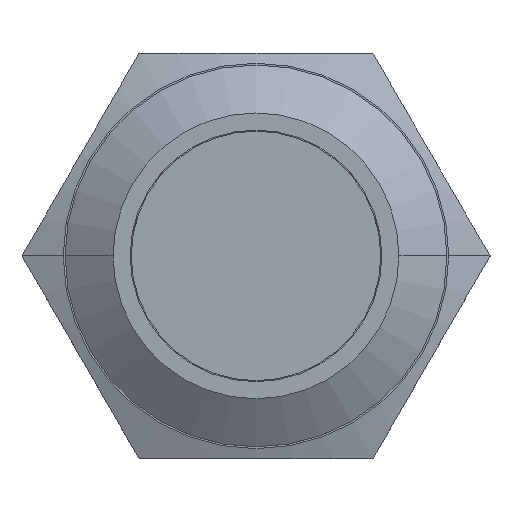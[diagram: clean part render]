
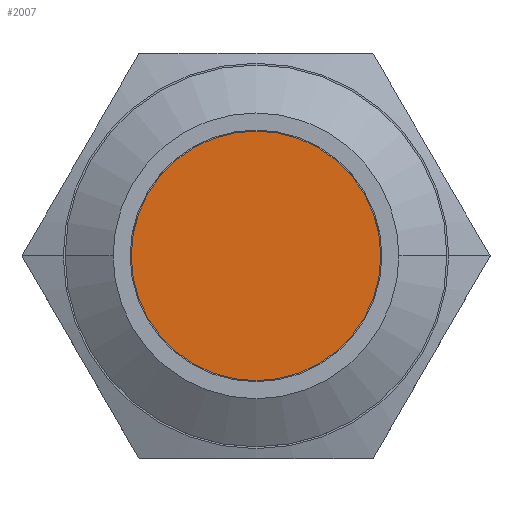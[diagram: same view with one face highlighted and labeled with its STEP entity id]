
A CAD part, top view. The second image highlights one B-rep face of the part: STEP entity #2007.
In plain terms, the highlighted planar face has unit normal (0, 0, 1).
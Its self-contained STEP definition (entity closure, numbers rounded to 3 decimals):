
#1782=PLANE('',#7270);
#2007=ADVANCED_FACE('',(#2371),#1782,.F.);
#2371=FACE_OUTER_BOUND('',#2737,.T.);
#2737=EDGE_LOOP('',(#3815,#3816));
#3815=ORIENTED_EDGE('',*,*,#5749,.T.);
#3816=ORIENTED_EDGE('',*,*,#5750,.T.);
#4961=VERTEX_POINT('',#10266);
#4962=VERTEX_POINT('',#10267);
#5749=EDGE_CURVE('',#4961,#4962,#6439,.T.);
#5750=EDGE_CURVE('',#4962,#4961,#6440,.T.);
#6439=CIRCLE('',#7268,5.85);
#6440=CIRCLE('',#7269,5.85);
#7268=AXIS2_PLACEMENT_3D('',#10265,#8454,#8455);
#7269=AXIS2_PLACEMENT_3D('',#10268,#8456,#8457);
#7270=AXIS2_PLACEMENT_3D('',#10269,#8458,#8459);
#8454=DIRECTION('',(0.,0.,1.));
#8455=DIRECTION('',(1.,0.,0.));
#8456=DIRECTION('',(0.,0.,1.));
#8457=DIRECTION('',(-1.,0.,0.));
#8458=DIRECTION('',(0.,0.,-1.));
#8459=DIRECTION('',(1.,0.,0.));
#10265=CARTESIAN_POINT('',(0.,0.,16.3));
#10266=CARTESIAN_POINT('',(5.85,0.,16.3));
#10267=CARTESIAN_POINT('',(-5.85,0.,16.3));
#10268=CARTESIAN_POINT('',(0.,0.,16.3));
#10269=CARTESIAN_POINT('',(10.,6.35,16.3));
